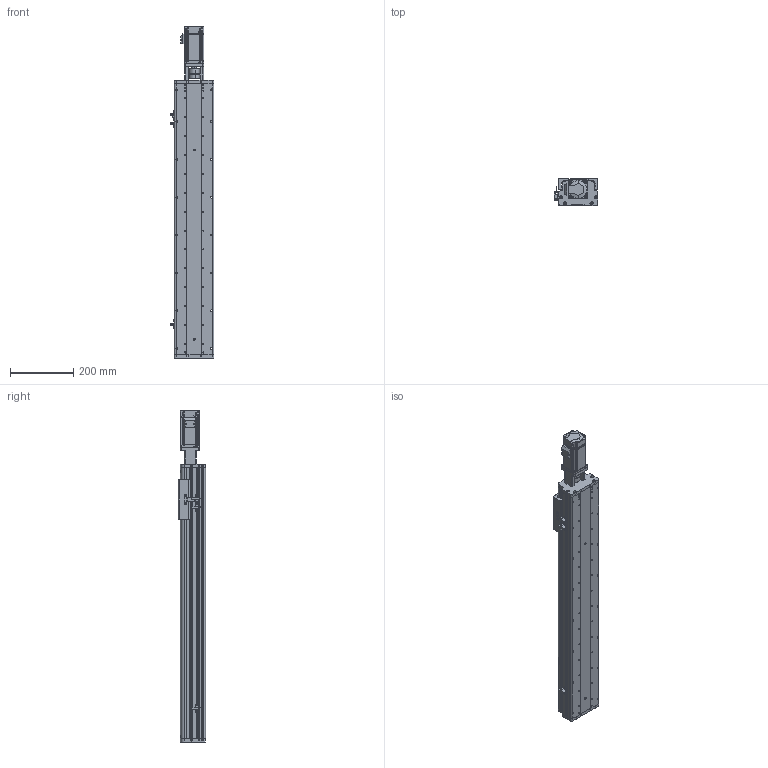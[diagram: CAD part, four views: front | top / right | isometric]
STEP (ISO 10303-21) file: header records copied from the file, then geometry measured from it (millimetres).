
FILE_DESCRIPTION (( 'STEP AP214' ), '1' );
FILE_NAME ('KSD125S-S650-MT-CM.STEP', '2017-08-07T06:45:00', ( '微软用户' ), ( '微软中国' ), 'SwSTEP 2.0', 'SolidWorks 2014', '' );
FILE_SCHEMA (( 'AUTOMOTIVE_DESIGN' ));
Length unit declared in the file: millimetre
Products named in the file (13): MHMD042G1CA_2_03; 100遵鎮湛假蚾啣1 ; 拸萇儂釱滅袉菜; 覜茼え68遵圉猾敕; U倰嫖萇假蚾璃; U倰嫖萇EEㄜSX672; ヶ傷啣-125遵耀郪; KSD125-賑雄釱1; CS-34X32-10X14; KSD125S-650俴最佪裝滅鳥裔; 125-帣傷啣1; KSD125S-S650-MT-CM; KSD125S-650俴最佪裝菁啣
Assembly tree (16 placements, depth 2):
  KSD125S-S650-MT-CM
    125-帣傷啣1
    CS-34X32-10X14
    KSD125-賑雄釱1
    ヶ傷啣-125遵耀郪
    U倰嫖萇EEㄜSX672  x3
    U倰嫖萇假蚾璃  x3
    覜茼え68遵圉猾敕
    拸萇儂釱滅袉菜
    100遵鎮湛假蚾啣1 
    MHMD042G1CA_2_03
    KSD125S-650俴最佪裝菁啣
    KSD125S-650俴最佪裝滅鳥裔
Bounding box: 138.7 x 86 x 1053.5 mm (x, y, z)
Volume: 2969610.3 mm3; surface area: 984742.1 mm2
Topology: 15 solids, 18 shells, 1550 faces, 4472 edges, 2943 vertices
Faces by surface type: cylinder 794, plane 643, cone 91, bspline 22
Entity records: 54697 total; most frequent: CARTESIAN_POINT 11496, DIRECTION 7850, ORIENTED_EDGE 7452, EDGE_CURVE 3804, AXIS2_PLACEMENT_3D 2903, VERTEX_POINT 2535, LINE 2044, VECTOR 2044
